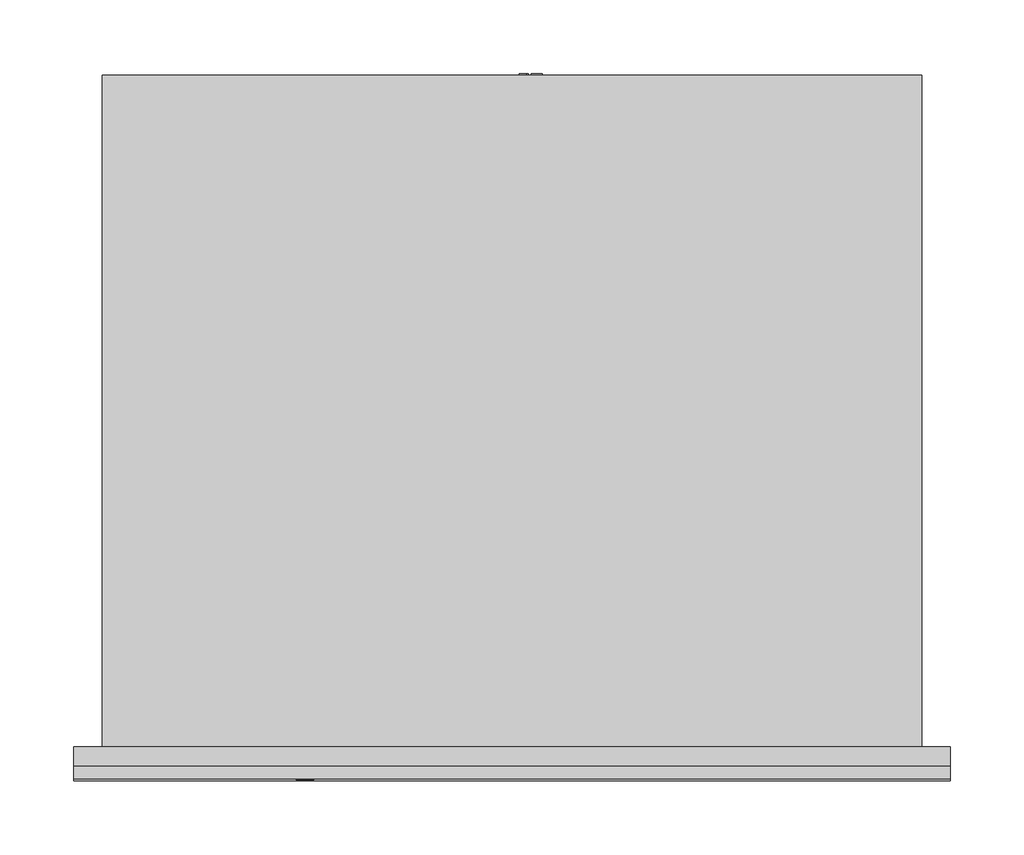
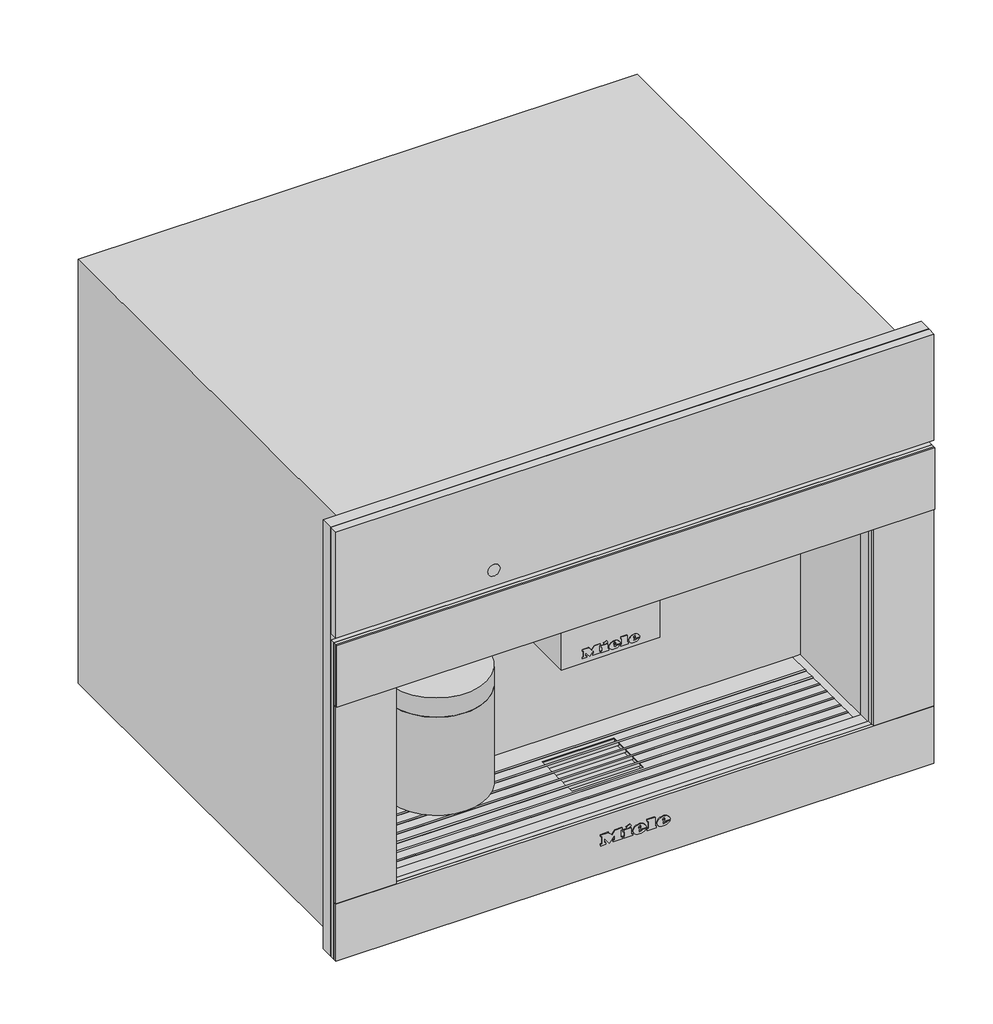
# Not in any storey: 1 proxy.
"""IFC4 building model written with IfcOpenShell, lengths in millimetres."""

from ifc_helpers import new_model, si_unit, origin, place, context, project, spatial, transform, mapped, element, save
from components import specialty_equipment_fd1400ea

model = new_model("IFC4")

# Units and contexts
model_context = context("Model", 3, world=origin())
ifc_project = project(units=[si_unit("LENGTHUNIT", "METRE", prefix="MILLI")], contexts=[model_context])

# Site, building
site = spatial("IfcSite", under=ifc_project)
building = spatial("IfcBuilding", under=site)

# Proxy
placement = place(None, origin())
specialty_equipment_shape = specialty_equipment_fd1400ea(model_context)
element("IfcBuildingElementProxy", 1, Name="11164770_CZ_CVA7440_EDST-CLST : 29744040_CZ_11164770_CVA7440_EDST-CLST", ObjectType="11164770_CZ_CVA7440_EDST-CLST : 29744040_CZ_11164770_CVA7440_EDST-CLST", at=placement, inside=building, context=model_context, shape_type="MappedRepresentation", body=[
    mapped(specialty_equipment_shape, transform((0.0, 0.0, 0.0), x_axis=(1.0, 0.0, 0.0), y_axis=(0.0, 1.0, 0.0), z_axis=(0.0, 0.0, 1.0))),
])

save(model, "model.ifc")
